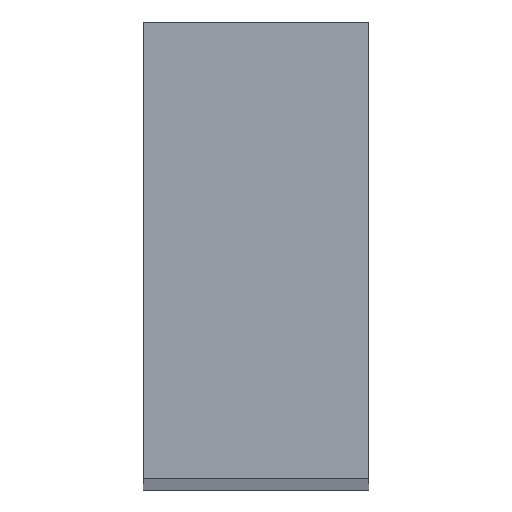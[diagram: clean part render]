
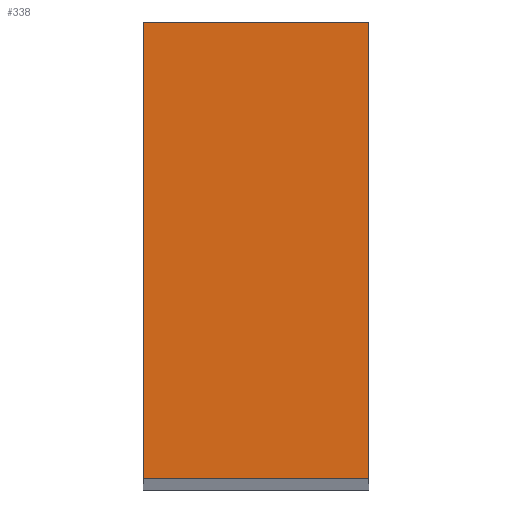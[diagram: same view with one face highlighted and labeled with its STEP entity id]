
A CAD part, top view. The second image highlights one B-rep face of the part: STEP entity #338.
In plain terms, the highlighted planar face has unit normal (0, 0, 1).
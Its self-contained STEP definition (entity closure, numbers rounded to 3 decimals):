
#24 = VERTEX_POINT('',#25);
#25 = CARTESIAN_POINT('',(65.1,-20.,612.));
#32 = PLANE('',#33);
#33 = AXIS2_PLACEMENT_3D('',#34,#35,#36);
#34 = CARTESIAN_POINT('',(65.1,-20.,12.));
#35 = DIRECTION('',(1.,0.,0.));
#36 = DIRECTION('',(0.,0.,1.));
#44 = PLANE('',#45);
#45 = AXIS2_PLACEMENT_3D('',#46,#47,#48);
#46 = CARTESIAN_POINT('',(65.1,-20.,12.));
#47 = DIRECTION('',(0.,1.,0.));
#48 = DIRECTION('',(0.,0.,1.));
#85 = VERTEX_POINT('',#86);
#86 = CARTESIAN_POINT('',(65.1,20.,612.));
#100 = PLANE('',#101);
#101 = AXIS2_PLACEMENT_3D('',#102,#103,#104);
#102 = CARTESIAN_POINT('',(65.1,20.,12.));
#103 = DIRECTION('',(0.,1.,0.));
#104 = DIRECTION('',(0.,0.,1.));
#112 = EDGE_CURVE('',#24,#85,#113,.T.);
#113 = SURFACE_CURVE('',#114,(#118,#125),.PCURVE_S1.);
#114 = LINE('',#115,#116);
#115 = CARTESIAN_POINT('',(65.1,-20.,612.));
#116 = VECTOR('',#117,1.);
#117 = DIRECTION('',(0.,1.,0.));
#118 = PCURVE('',#32,#119);
#119 = DEFINITIONAL_REPRESENTATION('',(#120),#124);
#120 = LINE('',#121,#122);
#121 = CARTESIAN_POINT('',(600.,0.));
#122 = VECTOR('',#123,1.);
#123 = DIRECTION('',(0.,-1.));
#124 = ( GEOMETRIC_REPRESENTATION_CONTEXT(2) 
PARAMETRIC_REPRESENTATION_CONTEXT() REPRESENTATION_CONTEXT('2D SPACE',''
  ) );
#125 = PCURVE('',#126,#131);
#126 = PLANE('',#127);
#127 = AXIS2_PLACEMENT_3D('',#128,#129,#130);
#128 = CARTESIAN_POINT('',(65.1,-20.,612.));
#129 = DIRECTION('',(0.,0.,1.));
#130 = DIRECTION('',(1.,0.,0.));
#131 = DEFINITIONAL_REPRESENTATION('',(#132),#136);
#132 = LINE('',#133,#134);
#133 = CARTESIAN_POINT('',(0.,0.));
#134 = VECTOR('',#135,1.);
#135 = DIRECTION('',(0.,1.));
#136 = ( GEOMETRIC_REPRESENTATION_CONTEXT(2) 
PARAMETRIC_REPRESENTATION_CONTEXT() REPRESENTATION_CONTEXT('2D SPACE',''
  ) );
#144 = VERTEX_POINT('',#145);
#145 = CARTESIAN_POINT('',(84.9,-20.,612.));
#152 = PLANE('',#153);
#153 = AXIS2_PLACEMENT_3D('',#154,#155,#156);
#154 = CARTESIAN_POINT('',(84.9,-20.,12.));
#155 = DIRECTION('',(1.,0.,0.));
#156 = DIRECTION('',(0.,0.,1.));
#195 = VERTEX_POINT('',#196);
#196 = CARTESIAN_POINT('',(84.9,20.,612.));
#217 = EDGE_CURVE('',#144,#195,#218,.T.);
#218 = SURFACE_CURVE('',#219,(#223,#230),.PCURVE_S1.);
#219 = LINE('',#220,#221);
#220 = CARTESIAN_POINT('',(84.9,-20.,612.));
#221 = VECTOR('',#222,1.);
#222 = DIRECTION('',(0.,1.,0.));
#223 = PCURVE('',#152,#224);
#224 = DEFINITIONAL_REPRESENTATION('',(#225),#229);
#225 = LINE('',#226,#227);
#226 = CARTESIAN_POINT('',(600.,0.));
#227 = VECTOR('',#228,1.);
#228 = DIRECTION('',(0.,-1.));
#229 = ( GEOMETRIC_REPRESENTATION_CONTEXT(2) 
PARAMETRIC_REPRESENTATION_CONTEXT() REPRESENTATION_CONTEXT('2D SPACE',''
  ) );
#230 = PCURVE('',#126,#231);
#231 = DEFINITIONAL_REPRESENTATION('',(#232),#236);
#232 = LINE('',#233,#234);
#233 = CARTESIAN_POINT('',(19.8,0.));
#234 = VECTOR('',#235,1.);
#235 = DIRECTION('',(0.,1.));
#236 = ( GEOMETRIC_REPRESENTATION_CONTEXT(2) 
PARAMETRIC_REPRESENTATION_CONTEXT() REPRESENTATION_CONTEXT('2D SPACE',''
  ) );
#263 = EDGE_CURVE('',#24,#144,#264,.T.);
#264 = SURFACE_CURVE('',#265,(#269,#276),.PCURVE_S1.);
#265 = LINE('',#266,#267);
#266 = CARTESIAN_POINT('',(65.1,-20.,612.));
#267 = VECTOR('',#268,1.);
#268 = DIRECTION('',(1.,0.,0.));
#269 = PCURVE('',#44,#270);
#270 = DEFINITIONAL_REPRESENTATION('',(#271),#275);
#271 = LINE('',#272,#273);
#272 = CARTESIAN_POINT('',(600.,0.));
#273 = VECTOR('',#274,1.);
#274 = DIRECTION('',(0.,1.));
#275 = ( GEOMETRIC_REPRESENTATION_CONTEXT(2) 
PARAMETRIC_REPRESENTATION_CONTEXT() REPRESENTATION_CONTEXT('2D SPACE',''
  ) );
#276 = PCURVE('',#126,#277);
#277 = DEFINITIONAL_REPRESENTATION('',(#278),#282);
#278 = LINE('',#279,#280);
#279 = CARTESIAN_POINT('',(0.,0.));
#280 = VECTOR('',#281,1.);
#281 = DIRECTION('',(1.,0.));
#282 = ( GEOMETRIC_REPRESENTATION_CONTEXT(2) 
PARAMETRIC_REPRESENTATION_CONTEXT() REPRESENTATION_CONTEXT('2D SPACE',''
  ) );
#310 = EDGE_CURVE('',#85,#195,#311,.T.);
#311 = SURFACE_CURVE('',#312,(#316,#323),.PCURVE_S1.);
#312 = LINE('',#313,#314);
#313 = CARTESIAN_POINT('',(65.1,20.,612.));
#314 = VECTOR('',#315,1.);
#315 = DIRECTION('',(1.,0.,0.));
#316 = PCURVE('',#100,#317);
#317 = DEFINITIONAL_REPRESENTATION('',(#318),#322);
#318 = LINE('',#319,#320);
#319 = CARTESIAN_POINT('',(600.,0.));
#320 = VECTOR('',#321,1.);
#321 = DIRECTION('',(0.,1.));
#322 = ( GEOMETRIC_REPRESENTATION_CONTEXT(2) 
PARAMETRIC_REPRESENTATION_CONTEXT() REPRESENTATION_CONTEXT('2D SPACE',''
  ) );
#323 = PCURVE('',#126,#324);
#324 = DEFINITIONAL_REPRESENTATION('',(#325),#329);
#325 = LINE('',#326,#327);
#326 = CARTESIAN_POINT('',(0.,40.));
#327 = VECTOR('',#328,1.);
#328 = DIRECTION('',(1.,0.));
#329 = ( GEOMETRIC_REPRESENTATION_CONTEXT(2) 
PARAMETRIC_REPRESENTATION_CONTEXT() REPRESENTATION_CONTEXT('2D SPACE',''
  ) );
#338 = ADVANCED_FACE('',(#339),#126,.T.);
#339 = FACE_BOUND('',#340,.T.);
#340 = EDGE_LOOP('',(#341,#342,#343,#344));
#341 = ORIENTED_EDGE('',*,*,#112,.F.);
#342 = ORIENTED_EDGE('',*,*,#263,.T.);
#343 = ORIENTED_EDGE('',*,*,#217,.T.);
#344 = ORIENTED_EDGE('',*,*,#310,.F.);
